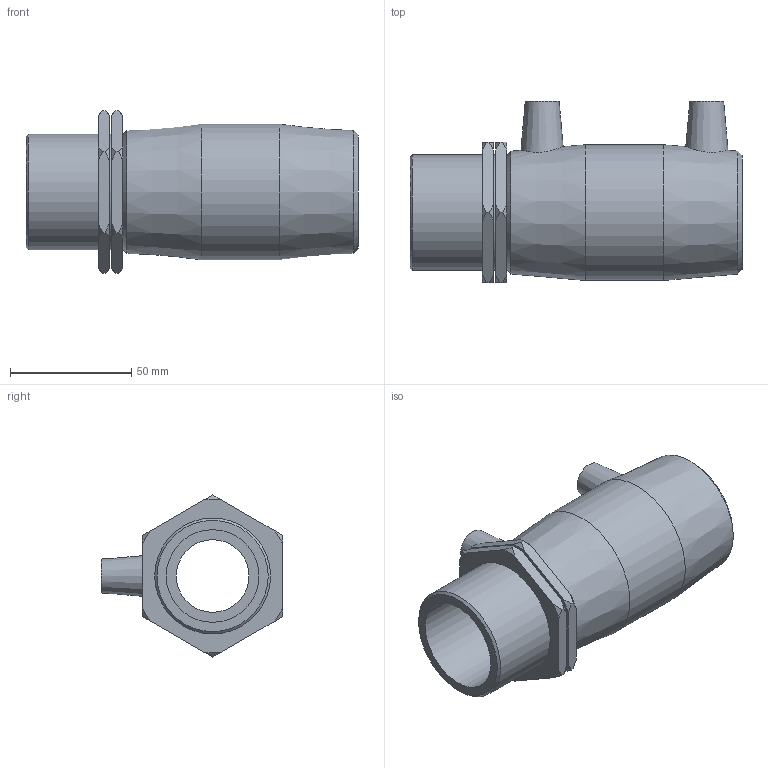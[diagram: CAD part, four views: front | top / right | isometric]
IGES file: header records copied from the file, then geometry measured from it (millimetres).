
Global section: file name: 497104040015.ipt; native system: Autodesk Inventor 2015; preprocessor: unknown; author: KIM; date: 20171106.094428; units: millimetre
Bounding box: 137 x 74.98 x 66.92 mm (x, y, z)
Volume: 170914.6 mm3; surface area: 50963.1 mm2
Topology: 1 solids, 2 shells, 75 faces, 186 edges, 126 vertices
Faces by surface type: cone 31, plane 29, revolution 8, cylinder 7
Full cylindrical faces by diameter (mm): 4 x2, 40 x2, 47.803 x2, 56 x1
